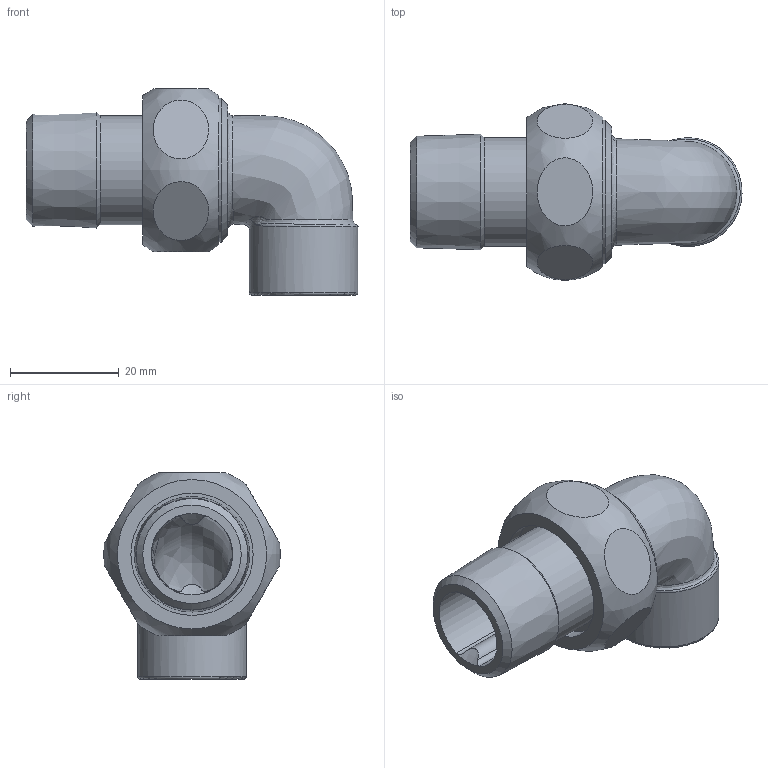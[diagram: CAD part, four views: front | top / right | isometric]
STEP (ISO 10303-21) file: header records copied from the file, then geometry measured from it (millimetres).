
FILE_DESCRIPTION((''),'2;1');
FILE_NAME('\\Lg50001\groups\SANHA Legnica\Engineering\Public\RYSUNKI\SANHA POLSKA\4098g\step\14098g_15-12(1).stp','2013-09-18T11:37:14',('lukawski'),(''),'Autodesk Inventor 2009','Autodesk Inventor 2009','');
FILE_SCHEMA(('AUTOMOTIVE_DESIGN { 1 0 10303 214 1 1 1 1 }'));
Length unit declared in the file: millimetre
Products named in the file (4): 14098g_15-12(1); 14382_12-34(3); 1E4098g_15-34(0); 14374_34(2)
Assembly tree (3 placements, depth 2):
  14098g_15-12(1)
    14382_12-34(3)
    1E4098g_15-34(0)
    14374_34(2)
Bounding box: 61.07 x 32.5 x 38 mm (x, y, z)
Volume: 16366.5 mm3; surface area: 12119.6 mm2
Topology: 3 solids, 3 shells, 51 faces, 99 edges, 62 vertices
Faces by surface type: cylinder 16, plane 16, cone 10, bspline 7, torus 2
Full cylindrical faces by diameter (mm): 15.065 x1, 20 x2, 21 x1, 22.5 x1, 23.5 x1, 24.117 x1, 26.441 x1
Entity records: 7650 total; most frequent: CARTESIAN_POINT 6629, DIRECTION 180, ORIENTED_EDGE 154, AXIS2_PLACEMENT_3D 86, EDGE_LOOP 84, EDGE_CURVE 77, VERTEX_POINT 59, FACE_OUTER_BOUND 51
